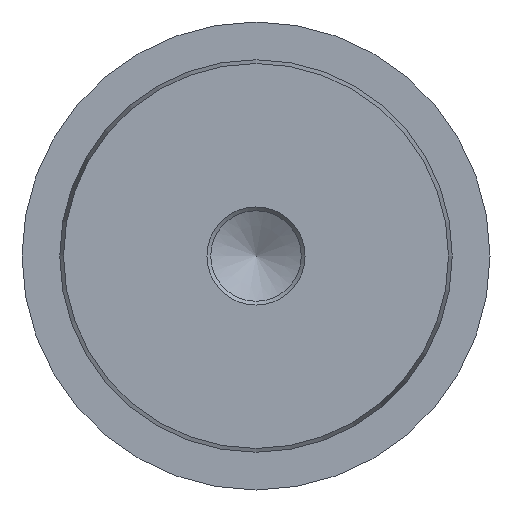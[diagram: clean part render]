
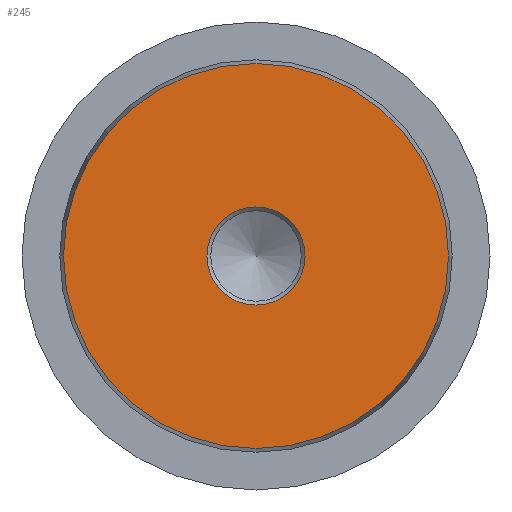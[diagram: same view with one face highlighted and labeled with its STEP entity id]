
A CAD part, left-side view. The second image highlights one B-rep face of the part: STEP entity #245.
In plain terms, the highlighted planar face has unit normal (-1, 0, 0).
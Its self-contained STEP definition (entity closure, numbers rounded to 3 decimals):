
#14=FACE_BOUND('',#81,.T.);
#24=PLANE('',#290);
#63=FACE_OUTER_BOUND('',#80,.T.);
#80=EDGE_LOOP('',(#182));
#81=EDGE_LOOP('',(#183));
#101=CIRCLE('',#289,6.5);
#102=CIRCLE('',#291,25.5);
#119=VERTEX_POINT('',#419);
#120=VERTEX_POINT('',#423);
#141=EDGE_CURVE('',#119,#119,#101,.T.);
#142=EDGE_CURVE('',#120,#120,#102,.T.);
#182=ORIENTED_EDGE('',*,*,#142,.F.);
#183=ORIENTED_EDGE('',*,*,#141,.T.);
#245=ADVANCED_FACE('',(#63,#14),#24,.T.);
#289=AXIS2_PLACEMENT_3D('',#421,#343,#344);
#290=AXIS2_PLACEMENT_3D('',#422,#345,#346);
#291=AXIS2_PLACEMENT_3D('',#424,#347,#348);
#343=DIRECTION('center_axis',(1.,0.,0.));
#344=DIRECTION('ref_axis',(0.,0.,-1.));
#345=DIRECTION('center_axis',(-1.,0.,0.));
#346=DIRECTION('ref_axis',(0.,0.,1.));
#347=DIRECTION('center_axis',(1.,0.,0.));
#348=DIRECTION('ref_axis',(0.,0.,-1.));
#419=CARTESIAN_POINT('',(0.,-6.5,0.));
#421=CARTESIAN_POINT('Origin',(0.,0.,0.));
#422=CARTESIAN_POINT('Origin',(0.,25.5,0.));
#423=CARTESIAN_POINT('',(0.,-25.5,0.));
#424=CARTESIAN_POINT('Origin',(0.,0.,0.));
